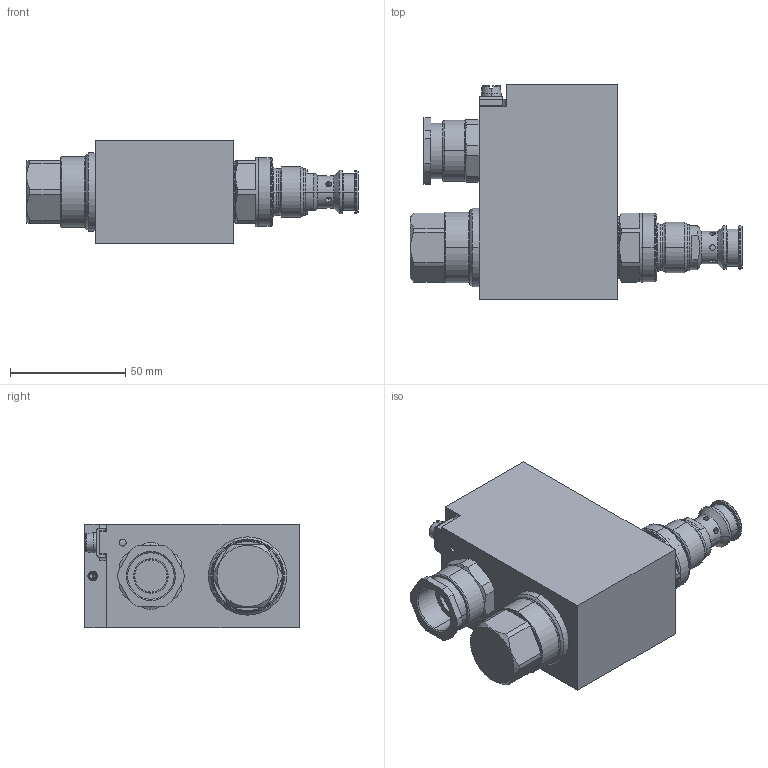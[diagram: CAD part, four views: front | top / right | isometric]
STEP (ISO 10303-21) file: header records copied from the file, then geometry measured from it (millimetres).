
FILE_DESCRIPTION (( 'STEP AP214' ), '1' );
FILE_NAME ('SDYPM22-BA-K9.STEP', '2021-02-24T11:09:41', ( '' ), ( '' ), 'SwSTEP 2.0', 'SolidWorks 2020', '' );
FILE_SCHEMA (( 'AUTOMOTIVE_DESIGN' ));
Length unit declared in the file: millimetre
Products named in the file (1): SDYPM22-BA-K9
Bounding box: 144.3 x 93.3 x 45 mm (x, y, z)
Volume: 295483.2 mm3; surface area: 38906.6 mm2
Topology: 1 solids, 1 shells, 359 faces, 880 edges, 559 vertices
Faces by surface type: plane 154, cylinder 110, cone 57, torus 30, bspline 8
Entity records: 15662 total; most frequent: CARTESIAN_POINT 3188, DIRECTION 1810, ORIENTED_EDGE 1756, EDGE_CURVE 878, AXIS2_PLACEMENT_3D 708, VERTEX_POINT 559, EDGE_LOOP 397, VECTOR 394
